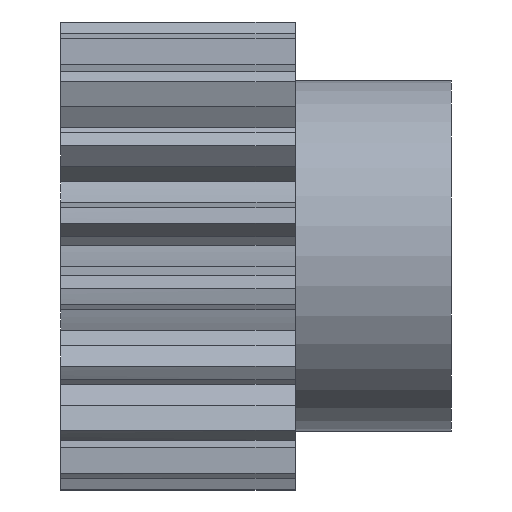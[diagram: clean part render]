
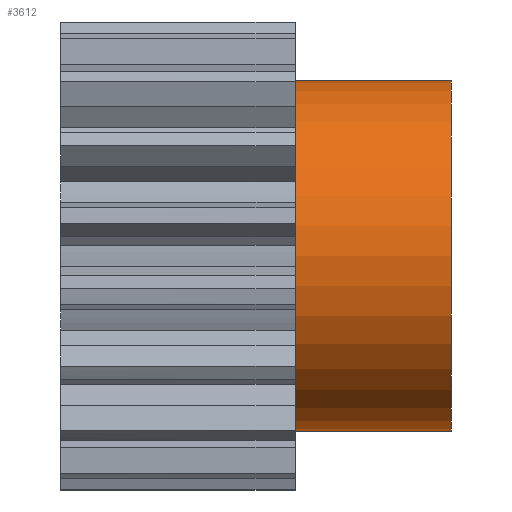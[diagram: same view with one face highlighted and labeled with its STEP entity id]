
A CAD part, front view. The second image highlights one B-rep face of the part: STEP entity #3612.
In plain terms, the highlighted cylindrical face has radius 22.5 mm (diameter 45 mm), a partial arc.
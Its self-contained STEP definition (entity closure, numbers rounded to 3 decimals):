
#413 = EDGE_CURVE ( 'NONE', #461, #440, #1879, .T. ) ;
#414 = VERTEX_POINT ( 'NONE', #1793 ) ;
#424 = VERTEX_POINT ( 'NONE', #1780 ) ;
#440 = VERTEX_POINT ( 'NONE', #1932 ) ;
#447 = EDGE_CURVE ( 'NONE', #424, #414, #1910, .T. ) ;
#461 = VERTEX_POINT ( 'NONE', #1923 ) ;
#1481 = DIRECTION ( 'NONE',  ( 0., 0., 1. ) ) ;
#1482 = DIRECTION ( 'NONE',  ( 1., 0., 0. ) ) ;
#1484 = CARTESIAN_POINT ( 'NONE',  ( 15., 0., 0. ) ) ;
#1485 = AXIS2_PLACEMENT_3D ( 'NONE', #1484, #1482, #1481 ) ;
#1493 = DIRECTION ( 'NONE',  ( 0., 0., 1. ) ) ;
#1494 = DIRECTION ( 'NONE',  ( -1., 0., 0. ) ) ;
#1496 = CARTESIAN_POINT ( 'NONE',  ( 35., 0., 0. ) ) ;
#1505 = AXIS2_PLACEMENT_3D ( 'NONE', #1496, #1494, #1493 ) ;
#1510 = CIRCLE ( 'NONE', #1485, 22.5 ) ;
#1511 = CIRCLE ( 'NONE', #1505, 22.5 ) ;
#1780 = CARTESIAN_POINT ( 'NONE',  ( 35., 0., 22.5 ) ) ;
#1793 = CARTESIAN_POINT ( 'NONE',  ( 15., 0., 22.5 ) ) ;
#1875 = DIRECTION ( 'NONE',  ( -1., 0., 0. ) ) ;
#1876 = VECTOR ( 'NONE', #1875, 1000. ) ;
#1877 = CARTESIAN_POINT ( 'NONE',  ( 15., 0., -22.5 ) ) ;
#1879 = LINE ( 'NONE', #1877, #1876 ) ;
#1905 = DIRECTION ( 'NONE',  ( -1., 0., 0. ) ) ;
#1906 = VECTOR ( 'NONE', #1905, 1000. ) ;
#1910 = LINE ( 'NONE', #1911, #1906 ) ;
#1911 = CARTESIAN_POINT ( 'NONE',  ( 15., 0., 22.5 ) ) ;
#1923 = CARTESIAN_POINT ( 'NONE',  ( 35., 0., -22.5 ) ) ;
#1932 = CARTESIAN_POINT ( 'NONE',  ( 15., 0., -22.5 ) ) ;
#2349 = CARTESIAN_POINT ( 'NONE',  ( 15., 0., 0. ) ) ;
#2356 = CYLINDRICAL_SURFACE ( 'NONE', #2357, 22.5 ) ;
#2357 = AXIS2_PLACEMENT_3D ( 'NONE', #2349, #2391, #2387 ) ;
#2387 = DIRECTION ( 'NONE',  ( 0., 0., 1. ) ) ;
#2391 = DIRECTION ( 'NONE',  ( -1., 0., 0. ) ) ;
#2394 = FACE_OUTER_BOUND ( 'NONE', #3565, .T. ) ;
#3213 = EDGE_CURVE ( 'NONE', #461, #424, #1511, .T. ) ;
#3218 = EDGE_CURVE ( 'NONE', #414, #440, #1510, .T. ) ;
#3565 = EDGE_LOOP ( 'NONE', ( #3609, #3620, #3614, #3637 ) ) ;
#3609 = ORIENTED_EDGE ( 'NONE', *, *, #413, .F. ) ;
#3612 = ADVANCED_FACE ( 'NONE', ( #2394 ), #2356, .T. ) ;
#3614 = ORIENTED_EDGE ( 'NONE', *, *, #447, .T. ) ;
#3620 = ORIENTED_EDGE ( 'NONE', *, *, #3213, .T. ) ;
#3637 = ORIENTED_EDGE ( 'NONE', *, *, #3218, .T. ) ;
